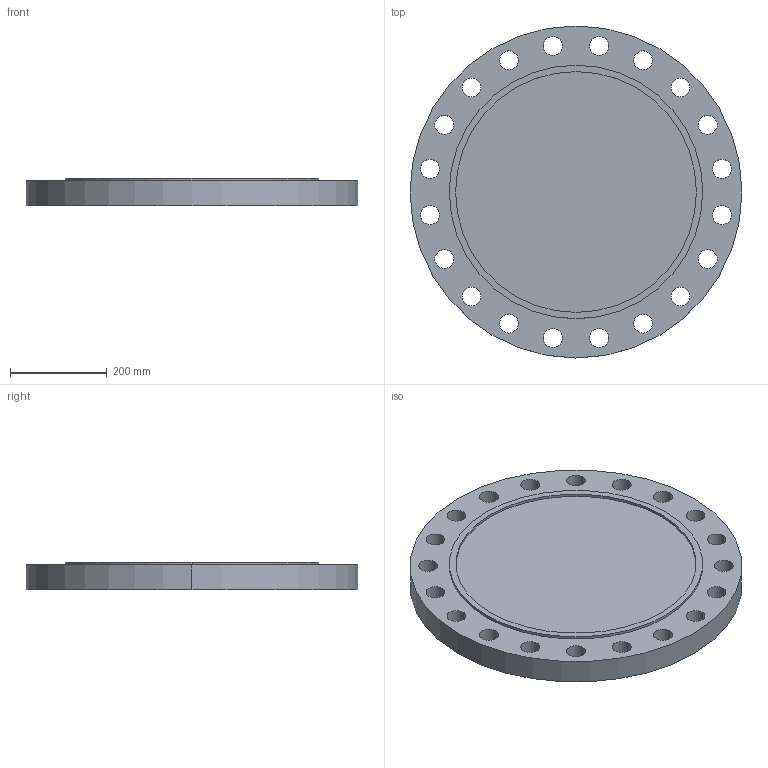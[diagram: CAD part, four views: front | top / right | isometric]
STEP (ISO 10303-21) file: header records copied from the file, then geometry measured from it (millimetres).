
FILE_DESCRIPTION (( 'STEP AP214' ), '1' );
FILE_NAME ('PN40 DN450 Type 05 - Type C Face.STEP', '2018-12-29T02:46:29', ( '' ), ( '' ), 'SwSTEP 2.0', 'SolidWorks 2019', '' );
FILE_SCHEMA (( 'AUTOMOTIVE_DESIGN' ));
Length unit declared in the file: millimetre
Products named in the file (1): PN40 DN450 Type 05 - Type C Face
Bounding box: 685 x 685 x 57 mm (x, y, z)
Volume: 17863345.2 mm3; surface area: 943922.9 mm2
Topology: 1 solids, 1 shells, 50 faces, 138 edges, 92 vertices
Faces by surface type: cylinder 46, plane 4
Entity records: 1768 total; most frequent: DIRECTION 332, CARTESIAN_POINT 281, ORIENTED_EDGE 276, AXIS2_PLACEMENT_3D 143, EDGE_CURVE 138, CIRCLE 92, EDGE_LOOP 92, VERTEX_POINT 92
